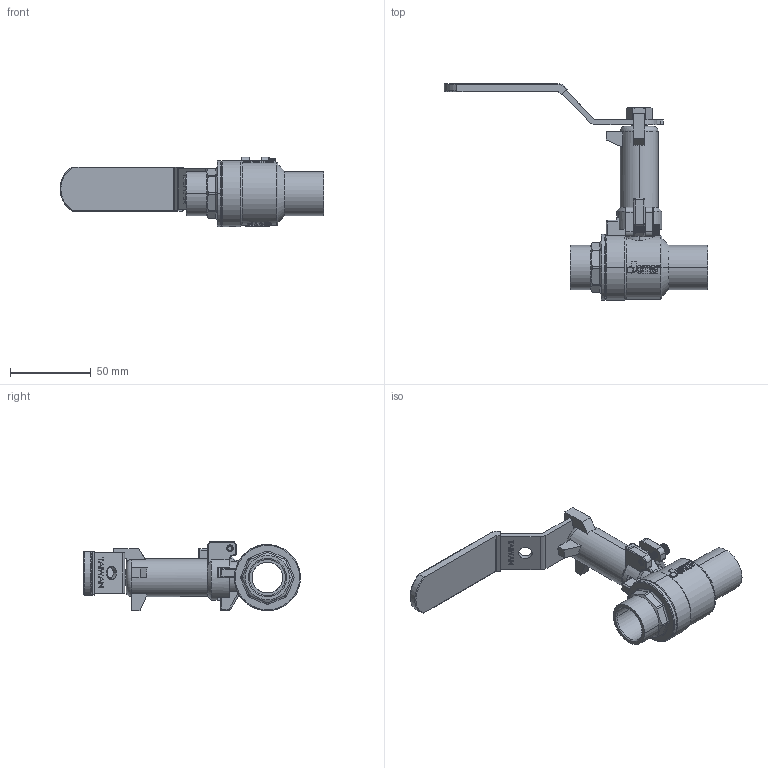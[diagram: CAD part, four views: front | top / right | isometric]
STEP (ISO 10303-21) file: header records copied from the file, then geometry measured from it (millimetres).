
FILE_DESCRIPTION (( 'STEP AP203' ), '1' );
FILE_NAME ('DN20-JOMAR增高套筒估價圖-CxC無掛鎖.STEP', '2024-04-09T08:23:43', ( '' ), ( '' ), 'SwSTEP 2.0', 'SolidWorks 2018', '' );
FILE_SCHEMA (( 'CONFIG_CONTROL_DESIGN' ));
Length unit declared in the file: millimetre
Products named in the file (17): DN20-白鐵中心栓+配件; TBL264A; SCREW-M4-19L; BBL714A-0.75''''JOMAR²y»Ö-CxC´U»\-µL¹]µL´¡·¾; DN20-白鐵中心栓牙套; EBL104; DN20-JOMAR增高套筒估價圖-CxC無掛鎖; NBL265; BBL714-0.75''''JOMAR球閥體-CxC-無鉛無插溝; CBL235-20230914改; RBL264; CBL215-白色膠套-S-200CSSG; EBL205A; DN20-CBL714-HANDLE & SLEEVE 組合(白色S膠套); EBL205B; DN20-PIPE 2-2; GBL205 (組裝)
Assembly tree (18 placements, depth 3):
  DN20-JOMAR增高套筒估價圖-CxC無掛鎖
    BBL714-0.75''''JOMAR球閥體-CxC-無鉛無插溝
    RBL264
    EBL205A
    EBL205B
    GBL205 (組裝)
    TBL264A
    BBL714A-0.75''''JOMAR²y»Ö-CxC´U»\-µL¹]µL´¡·¾
    EBL104  x2
    NBL265
    DN20-CBL714-HANDLE & SLEEVE 組合(白色S膠套)
      CBL235-20230914改
      CBL215-白色膠套-S-200CSSG
    CBL215-白色膠套-S-200CSSG
    DN20-PIPE 2-2
    DN20-白鐵中心栓+配件
    SCREW-M4-19L
    DN20-白鐵中心栓牙套
Bounding box: 163.7 x 134.51 x 43 mm (x, y, z)
Volume: 91598.4 mm3; surface area: 78610.8 mm2
Topology: 17 solids, 17 shells, 4145 faces, 11190 edges, 7394 vertices
Faces by surface type: plane 2223, bspline 1148, cylinder 608, cone 99, torus 53, sphere 14
Entity records: 151365 total; most frequent: CARTESIAN_POINT 86966, ORIENTED_EDGE 14796, DIRECTION 10169, EDGE_CURVE 7398, VERTEX_POINT 4875, VECTOR 4103, LINE 4103, AXIS2_PLACEMENT_3D 3033
